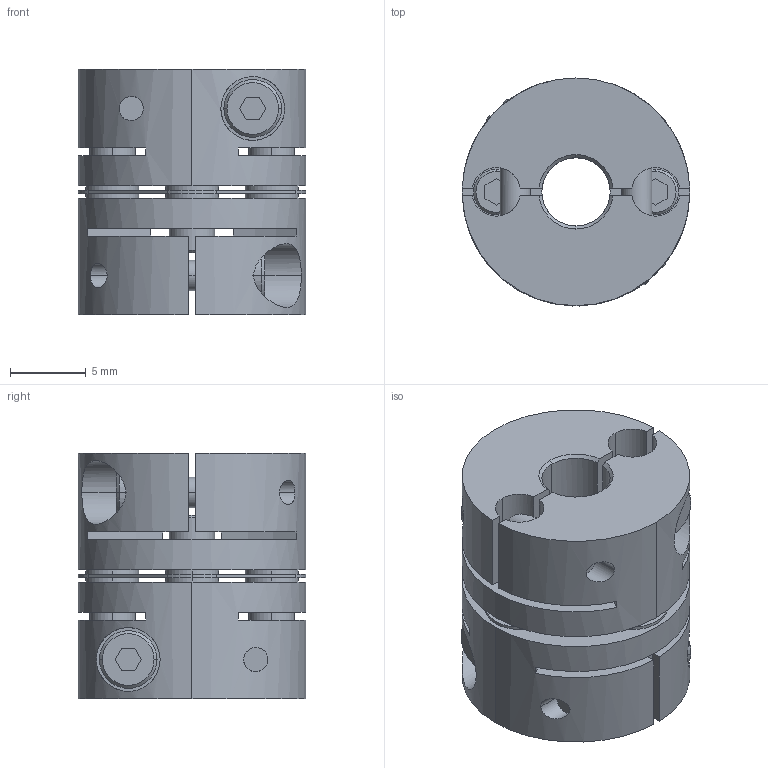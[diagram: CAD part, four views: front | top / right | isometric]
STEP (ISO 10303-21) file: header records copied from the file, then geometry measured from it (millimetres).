
FILE_DESCRIPTION((''),'2;1');
FILE_NAME('LAS-15C-4.5×6.stp','2016-04-21T12:34:22',(''),(''),'AutoCAD STEP 2000i','AutoCAD 2000i',', , ');
FILE_SCHEMA(('CONFIG_CONTROL_DESIGN'));
Length unit declared in the file: millimetre
Products named in the file (6): LAS-15C-3×6; 忣兜1; LA-1502-D06; LA-1502-D03-1; LA-1502-D03; LAS15-ITA
Assembly tree (5 placements, depth 2):
  LAS-15C-3×6
    忣兜1
    LA-1502-D06
    LA-1502-D03-1
    LA-1502-D03
    LAS15-ITA
Bounding box: 15 x 15 x 16.2 mm (x, y, z)
Volume: 2082.5 mm3; surface area: 2670.5 mm2
Topology: 1 solids, 1 shells, 236 faces, 624 edges, 408 vertices
Faces by surface type: plane 112, cylinder 96, cone 28
Entity records: 8169 total; most frequent: CARTESIAN_POINT 1962, DIRECTION 1304, ORIENTED_EDGE 1248, EDGE_CURVE 624, AXIS2_PLACEMENT_3D 478, VERTEX_POINT 408, VECTOR 348, LINE 348
